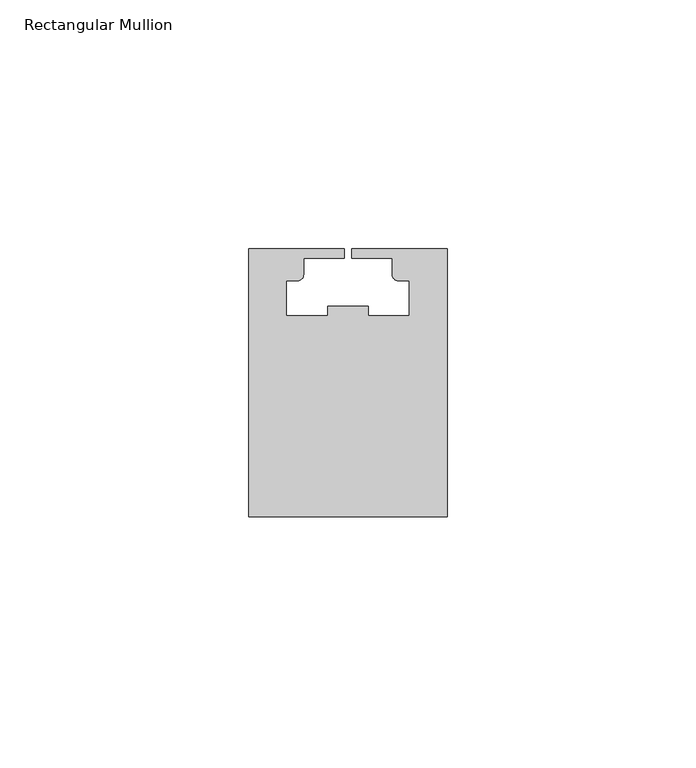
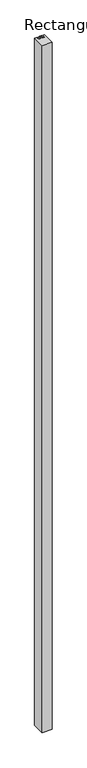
"""IFC4 building model written with IfcOpenShell, lengths in millimetres: member geometry, Rectangular Mullion : SD.054 - right_renson."""

from ifc_helpers import new_model, si_unit, point, frame, frame_2d, origin, place, context, project, spatial, polyline, circle_curve, trimmed, segment, composite_curve, outline, extrude, source, transform, mapped, element, save


def rectangular_mullion_dfb17e98(model_context):
    return source(origin(), model_context, "Body", "SweptSolid", [
        extrude(outline(composite_curve([segment(polyline([(-50.0, -1.0), (-50.0, -55.0), (-90.0, -55.0), (-90.0, -1.0), (-70.7528633, -1.0), (-70.7528633, -3.0), (-78.9220615, -3.0), (-78.9220615, -6.2788187)]), True, "CONTINUOUS"), segment(trimmed(circle_curve(frame_2d((-80.1231703, -6.2788187)), 1.2011087), [point((-78.9220615, -6.2788187))], [point((-80.1231703, -7.4799274))], False, "CARTESIAN"), True, "CONTINUOUS"), segment(polyline([(-80.1231703, -7.4799274), (-82.3724438, -7.4799274), (-82.3724438, -14.5683484), (-74.0479621, -14.5683484), (-74.0479621, -12.5683484), (-65.9520379, -12.5683484), (-65.9520379, -14.5683484), (-57.6275562, -14.5683484), (-57.6275562, -7.4799274), (-59.8768297, -7.4799274)]), True, "CONTINUOUS"), segment(trimmed(circle_curve(frame_2d((-59.8768297, -6.2788187)), 1.2011087), [point((-59.8768297, -7.4799274))], [point((-61.0779385, -6.2788187))], False, "CARTESIAN"), True, "CONTINUOUS"), segment(polyline([(-61.0779385, -6.2788187), (-61.0779385, -3.0), (-69.2471367, -3.0), (-69.2471367, -1.0), (-50.0, -1.0)]), True, "CONTINUOUS")], self_intersect=False)), frame((0.0, 0.0, -3000.0), z_axis=(0.0, 0.0, 1.0), x_axis=(1.0, 0.0, 0.0)), (0.0, 0.0, 1.0), 3000.0),
    ])


if __name__ == "__main__":
    model = new_model("IFC4")
    model_context = context("Model", 3, world=origin())
    ifc_project = project(units=[si_unit("LENGTHUNIT", "METRE", prefix="MILLI")], contexts=[model_context])
    site = spatial("IfcSite", under=ifc_project)
    building = spatial("IfcBuilding", under=site)
    placement = place(None, origin())
    rectangular_mullion_shape = rectangular_mullion_dfb17e98(model_context)
    element("IfcMember", 1, ObjectType="Rectangular Mullion : SD.054 - right_renson", at=placement, inside=building, context=model_context, shape_type="MappedRepresentation", body=[
        mapped(rectangular_mullion_shape, transform((0.0, 0.0, 0.0), x_axis=(1.0, 0.0, 0.0), y_axis=(0.0, 1.0, 0.0), z_axis=(0.0, 0.0, 1.0))),
    ])
    save(model, "model.ifc")
